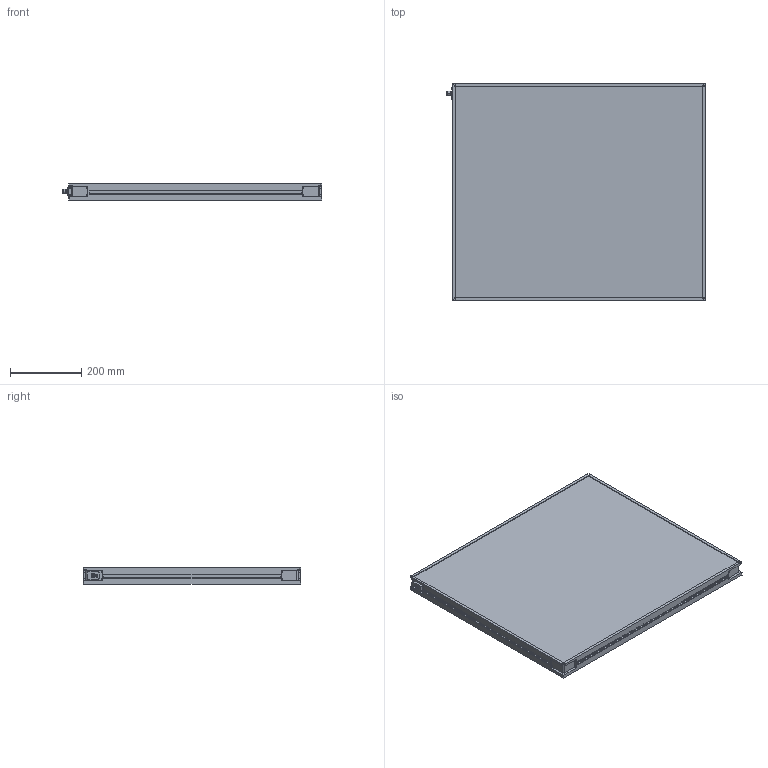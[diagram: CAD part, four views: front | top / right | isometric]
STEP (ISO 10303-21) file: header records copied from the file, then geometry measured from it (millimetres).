
FILE_DESCRIPTION (( 'STEP AP214' ), '1' );
FILE_NAME ('MBACK-xxxx-xxx-M1_CLIENT600x700.STEP', '2022-03-31T16:27:11', ( '' ), ( '' ), 'SwSTEP 2.0', 'SolidWorks 2020', '' );
FILE_SCHEMA (( 'AUTOMOTIVE_DESIGN' ));
Length unit declared in the file: millimetre
Products named in the file (1): MBACK-xxxx-xxx-M1_CLIENT600x700
Bounding box: 725.9 x 608 x 45.5 mm (x, y, z)
Volume: 17895207.6 mm3; surface area: 1035601.5 mm2
Topology: 1 solids, 1 shells, 442 faces, 1144 edges, 760 vertices
Faces by surface type: plane 249, cylinder 105, bspline 80, cone 8
Entity records: 17236 total; most frequent: CARTESIAN_POINT 6699, ORIENTED_EDGE 2288, DIRECTION 1936, EDGE_CURVE 1144, VERTEX_POINT 760, LINE 758, VECTOR 758, AXIS2_PLACEMENT_3D 589
